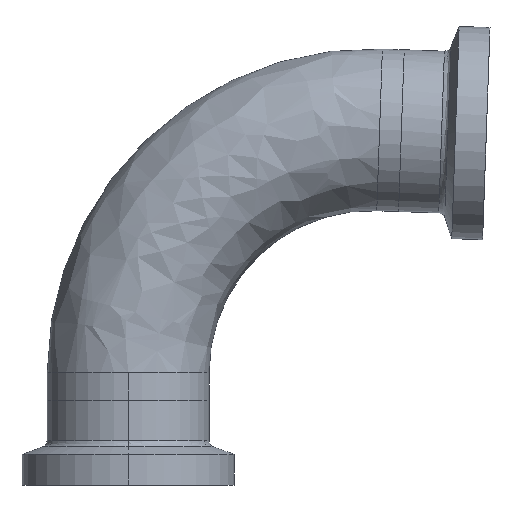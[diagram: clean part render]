
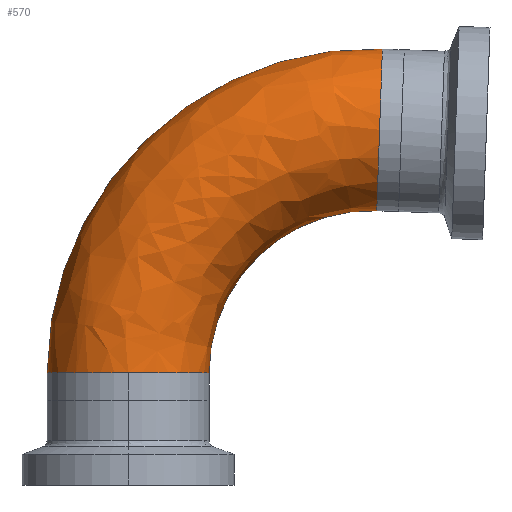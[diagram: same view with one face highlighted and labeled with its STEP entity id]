
A CAD part, top view. The second image highlights one B-rep face of the part: STEP entity #570.
In plain terms, the highlighted free-form (B-spline) face has degree [3, 3] with [4, 4] control points.
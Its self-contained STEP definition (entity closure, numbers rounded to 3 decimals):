
#48 = VERTEX_POINT ( 'NONE', #1811 ) ;
#55 = CARTESIAN_POINT ( 'NONE',  ( 0., 3.256, 9.525 ) ) ;
#107 = ORIENTED_EDGE ( 'NONE', *, *, #878, .T. ) ;
#191 = DIRECTION ( 'NONE',  ( -1., 0., 0. ) ) ;
#210 = ORIENTED_EDGE ( 'NONE', *, *, #502, .T. ) ;
#216 = CARTESIAN_POINT ( 'NONE',  ( 29.598, 31.839, 0. ) ) ;
#222 = EDGE_CURVE ( 'NONE', #1027, #1499, #882, .T. ) ;
#230 = DIRECTION ( 'NONE',  ( -0.999, 0.035, 0. ) ) ;
#246 = DIRECTION ( 'NONE',  ( 0.035, 0.999, 0. ) ) ;
#277 = DIRECTION ( 'NONE',  ( 0., 0., -1. ) ) ;
#459 = ORIENTED_EDGE ( 'NONE', *, *, #222, .T. ) ;
#475 = CARTESIAN_POINT ( 'NONE',  ( 0., 3.256, 0. ) ) ;
#502 = EDGE_CURVE ( 'NONE', #1759, #1177, #967, .T. ) ;
#537 = CARTESIAN_POINT ( 'NONE',  ( -9.525, 3.256, 0. ) ) ;
#570 = ADVANCED_FACE ( 'NONE', ( #1773 ), #1480, .T. ) ;
#685 = ORIENTED_EDGE ( 'NONE', *, *, #1170, .T. ) ;
#686 = CARTESIAN_POINT ( 'NONE',  ( 6.988, 42.159, 0. ) ) ;
#720 = CARTESIAN_POINT ( 'NONE',  ( 29.931, 41.358, 0. ) ) ;
#755 = CARTESIAN_POINT ( 'NONE',  ( -9.525, 26.212, 19.05 ) ) ;
#765 = CIRCLE ( 'NONE', #1878, 19.075 ) ;
#777 = CARTESIAN_POINT ( 'NONE',  ( 6.988, 42.159, 19.05 ) ) ;
#799 = CARTESIAN_POINT ( 'NONE',  ( 17.787, 22.72, 19.05 ) ) ;
#821 = DIRECTION ( 'NONE',  ( -1., 0., 0. ) ) ;
#832 = CARTESIAN_POINT ( 'NONE',  ( 29.266, 22.319, 19.05 ) ) ;
#861 = CARTESIAN_POINT ( 'NONE',  ( 9.525, 3.256, 0. ) ) ;
#878 = EDGE_CURVE ( 'NONE', #1499, #1759, #765, .T. ) ;
#882 = CIRCLE ( 'NONE', #1710, 9.525 ) ;
#899 = CARTESIAN_POINT ( 'NONE',  ( 9.525, 14.742, 0. ) ) ;
#930 = CARTESIAN_POINT ( 'NONE',  ( 17.787, 22.72, 0. ) ) ;
#938 = CARTESIAN_POINT ( 'NONE',  ( 29.266, 22.319, 0. ) ) ;
#965 = DIRECTION ( 'NONE',  ( -1., 0., 0. ) ) ;
#967 = CIRCLE ( 'NONE', #1485, 9.525 ) ;
#972 = CARTESIAN_POINT ( 'NONE',  ( 9.525, 3.256, 0. ) ) ;
#1027 = VERTEX_POINT ( 'NONE', #55 ) ;
#1073 = DIRECTION ( 'NONE',  ( 0., 0., -1. ) ) ;
#1076 = DIRECTION ( 'NONE',  ( -1., 0., 0. ) ) ;
#1095 = DIRECTION ( 'NONE',  ( 0., 1., 0. ) ) ;
#1103 = CIRCLE ( 'NONE', #1282, 9.525 ) ;
#1158 = CARTESIAN_POINT ( 'NONE',  ( 9.525, 14.742, 19.05 ) ) ;
#1168 = CARTESIAN_POINT ( 'NONE',  ( -9.525, 26.212, 0. ) ) ;
#1170 = EDGE_CURVE ( 'NONE', #48, #1027, #1103, .T. ) ;
#1177 = VERTEX_POINT ( 'NONE', #1513 ) ;
#1189 = CARTESIAN_POINT ( 'NONE',  ( 0., 3.256, 0. ) ) ;
#1243 = CIRCLE ( 'NONE', #1821, 38.125 ) ;
#1282 = AXIS2_PLACEMENT_3D ( 'NONE', #1189, #1095, #1076 ) ;
#1310 = CARTESIAN_POINT ( 'NONE',  ( 29.266, 22.319, 0. ) ) ;
#1427 = DIRECTION ( 'NONE',  ( 0., 1., 0. ) ) ;
#1442 = CARTESIAN_POINT ( 'NONE',  ( 28.6, 3.256, 0. ) ) ;
#1480 =( BOUNDED_SURFACE ( )  B_SPLINE_SURFACE ( 3, 3, ( 
 ( #537, #1168, #686, #720 ),
 ( #1544, #755, #777, #1906 ),
 ( #1823, #1158, #799, #832 ),
 ( #861, #899, #930, #938 ) ),
 .UNSPECIFIED., .F., .F., .F. ) 
 B_SPLINE_SURFACE_WITH_KNOTS ( ( 4, 4 ),
 ( 4, 4 ),
 ( 0., 1. ),
 ( 0., 1. ),
 .UNSPECIFIED. ) 
 GEOMETRIC_REPRESENTATION_ITEM ( )  RATIONAL_B_SPLINE_SURFACE ( (
 ( 1., 0.796, 0.796, 1.),
 ( 0.333, 0.265, 0.265, 0.333),
 ( 0.333, 0.265, 0.265, 0.333),
 ( 1., 0.796, 0.796, 1.) ) ) 
 REPRESENTATION_ITEM ( '' )  SURFACE ( )  );
#1483 = EDGE_CURVE ( 'NONE', #48, #1177, #1243, .T. ) ;
#1485 = AXIS2_PLACEMENT_3D ( 'NONE', #216, #230, #246 ) ;
#1499 = VERTEX_POINT ( 'NONE', #972 ) ;
#1513 = CARTESIAN_POINT ( 'NONE',  ( 29.931, 41.358, 0. ) ) ;
#1544 = CARTESIAN_POINT ( 'NONE',  ( -9.525, 3.256, 19.05 ) ) ;
#1549 = EDGE_LOOP ( 'NONE', ( #459, #107, #210, #1896, #685 ) ) ;
#1710 = AXIS2_PLACEMENT_3D ( 'NONE', #475, #1427, #191 ) ;
#1759 = VERTEX_POINT ( 'NONE', #1310 ) ;
#1773 = FACE_OUTER_BOUND ( 'NONE', #1549, .T. ) ;
#1784 = CARTESIAN_POINT ( 'NONE',  ( 28.6, 3.256, 0. ) ) ;
#1811 = CARTESIAN_POINT ( 'NONE',  ( -9.525, 3.256, 0. ) ) ;
#1821 = AXIS2_PLACEMENT_3D ( 'NONE', #1784, #1073, #965 ) ;
#1823 = CARTESIAN_POINT ( 'NONE',  ( 9.525, 3.256, 19.05 ) ) ;
#1878 = AXIS2_PLACEMENT_3D ( 'NONE', #1442, #277, #821 ) ;
#1896 = ORIENTED_EDGE ( 'NONE', *, *, #1483, .F. ) ;
#1906 = CARTESIAN_POINT ( 'NONE',  ( 29.931, 41.358, 19.05 ) ) ;
